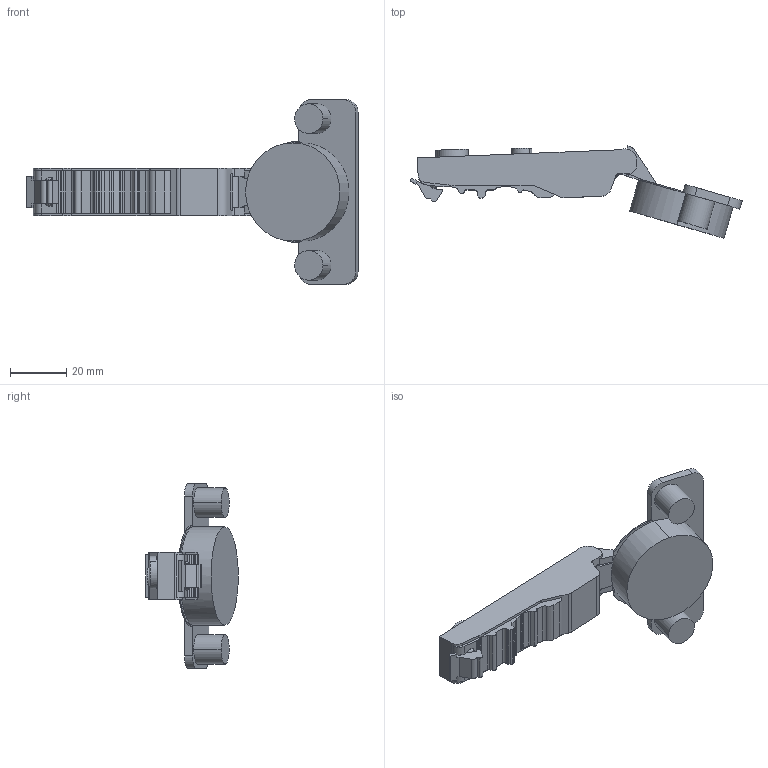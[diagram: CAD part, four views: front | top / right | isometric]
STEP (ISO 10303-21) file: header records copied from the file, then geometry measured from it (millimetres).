
FILE_DESCRIPTION (( 'STEP AP203' ), '1' );
FILE_NAME ('C82A677MFA-DTC 3D open.STEP', '2024-07-10T09:06:42', ( '微软用户' ), ( '微软中国' ), 'SwSTEP 2.0', 'SolidWorks 2021', '' );
FILE_SCHEMA (( 'CONFIG_CONTROL_DESIGN' ));
Length unit declared in the file: millimetre
Products named in the file (1): C82A677MFA-DTC 3D open
Bounding box: 117.71 x 32.77 x 65.56 mm (x, y, z)
Volume: 35087.5 mm3; surface area: 11768.8 mm2
Topology: 1 solids, 1 shells, 204 faces, 582 edges, 384 vertices
Faces by surface type: cylinder 90, plane 90, torus 12, bspline 8, cone 4
Entity records: 7003 total; most frequent: CARTESIAN_POINT 1569, ORIENTED_EDGE 1164, DIRECTION 1118, EDGE_CURVE 582, AXIS2_PLACEMENT_3D 398, VERTEX_POINT 384, LINE 322, VECTOR 322
